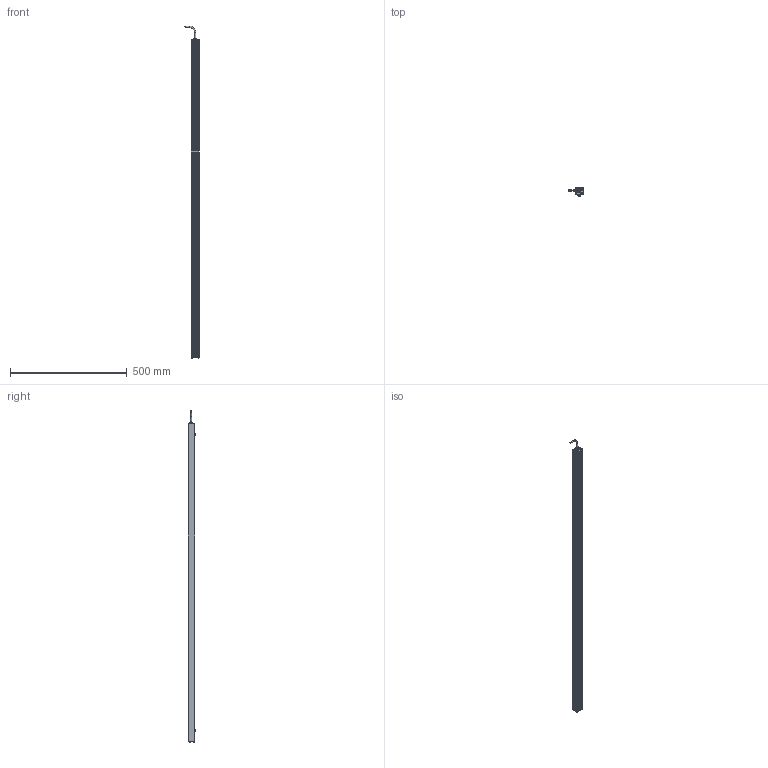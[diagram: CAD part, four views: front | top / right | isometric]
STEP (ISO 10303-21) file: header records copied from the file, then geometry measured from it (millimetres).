
FILE_DESCRIPTION (( 'STEP AP214' ), '1' );
FILE_NAME ('AL150XXXX_AL150312.stp', '2021-04-29T15:41:41', ( '' ), ( '' ), 'SwSTEP 2.0', 'SolidWorks 2018', '' );
FILE_SCHEMA (( 'AUTOMOTIVE_DESIGN' ));
Length unit declared in the file: inch
Products named in the file (12): CHM6x8_91460A312; 116-02-007; AL150XXXX_AL150312; 150-03-006-XXXX_150-03-006-312; Part1^AL150XXXX; 1157 (no strap); Part2^AL150XXXX; HN-M6_90592A016; 150-01-005-XXX_150-01-005-312; 093145_93701A253; 092408_TRUNCATED; 116-02-006
Assembly tree (18 placements, depth 2):
  AL150XXXX_AL150312
    150-01-005-XXX_150-01-005-312
    116-02-006
    093145_93701A253  x8
    HN-M6_90592A016  x2
    CHM6x8_91460A312  x2
    150-03-006-XXXX_150-03-006-312
    116-02-007
    1157 (no strap)
    092408_TRUNCATED
  Part1^AL150XXXX
  Part2^AL150XXXX
Bounding box: 60.68 x 33.84 x 1423.09 mm (x, y, z)
Volume: 424126.5 mm3; surface area: 448778 mm2
Topology: 26 solids, 26 shells, 1306 faces, 3436 edges, 2127 vertices
Faces by surface type: cylinder 805, cone 249, plane 153, torus 59, bspline 32, sphere 8
Entity records: 18285 total; most frequent: CARTESIAN_POINT 6069, ORIENTED_EDGE 2496, DIRECTION 2311, EDGE_CURVE 1248, AXIS2_PLACEMENT_3D 881, VERTEX_POINT 800, LINE 549, VECTOR 549
